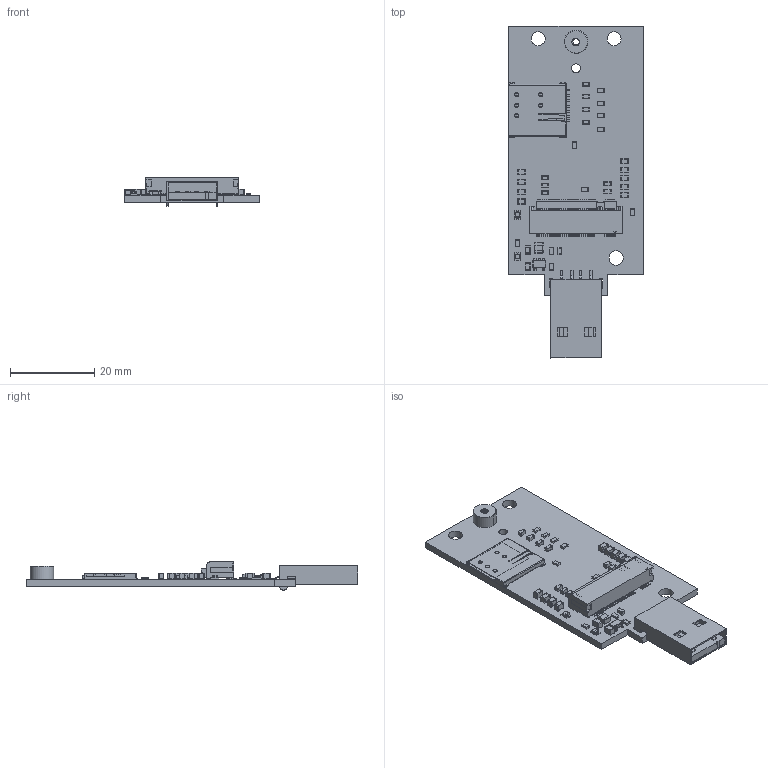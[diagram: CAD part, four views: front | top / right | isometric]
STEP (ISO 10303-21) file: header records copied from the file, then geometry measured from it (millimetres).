
FILE_DESCRIPTION(('Open CASCADE Model'),'2;1');
FILE_NAME('Open CASCADE Shape Model','2025-04-20T11:01:37',('Author'),( 'Open CASCADE'),'Open CASCADE STEP processor 6.8','Open CASCADE 6.8' ,'Unknown');
FILE_SCHEMA(('AUTOMOTIVE_DESIGN { 1 0 10303 214 1 1 1 1 }'));
Products named in the file (1): PCB
Bounding box: 32.06 x 78.7 x 6.68 mm (x, y, z)
Volume: 4671.9 mm3; surface area: 7284 mm2
Topology: 98 solids, 208 shells, 3342 faces, 8691 edges, 5595 vertices
Faces by surface type: plane 2179, cylinder 909, sphere 182, bspline 55, cone 12, torus 5
Full cylindrical faces by diameter (mm): 0.75 x2, 1.1 x1, 1.2 x2, 1.6 x1, 2.1 x1, 3.3 x2, 3.4 x1, 3.8 x1
Entity records: 104304 total; most frequent: CARTESIAN_POINT 21699, DIRECTION 16604, ORIENTED_EDGE 16482, EDGE_CURVE 8505, LINE 6468, VECTOR 6468, VERTEX_POINT 5593, AXIS2_PLACEMENT_3D 5068
